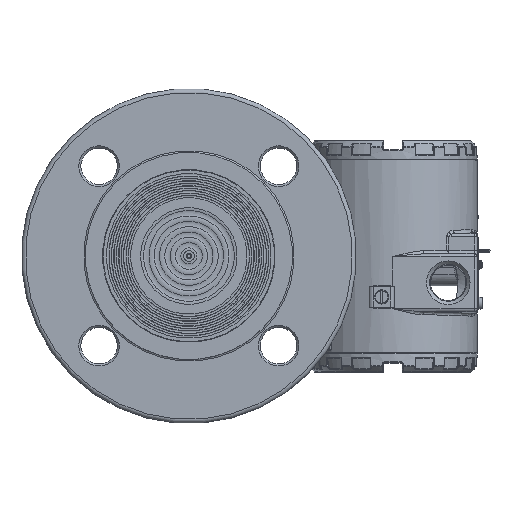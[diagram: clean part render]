
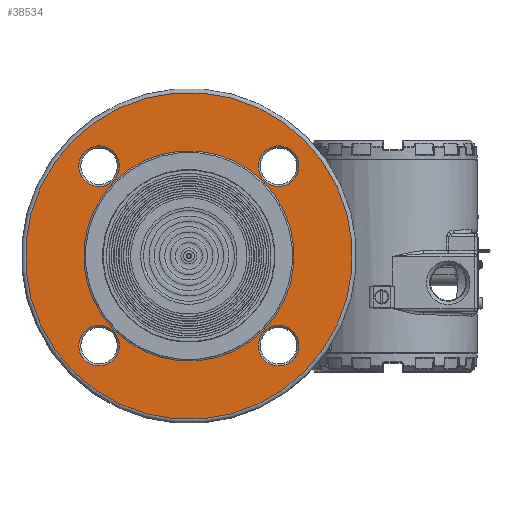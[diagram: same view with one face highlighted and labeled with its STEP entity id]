
A CAD part, top view. The second image highlights one B-rep face of the part: STEP entity #38534.
In plain terms, the highlighted planar face has unit normal (0, 0, 1) as drawn and (-1, 0, 0) by its records, which use the part's own axes.
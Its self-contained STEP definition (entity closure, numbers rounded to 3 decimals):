
#749=FACE_BOUND('',#6550,.T.);
#750=FACE_BOUND('',#6551,.T.);
#751=FACE_BOUND('',#6552,.T.);
#752=FACE_BOUND('',#6553,.T.);
#753=FACE_BOUND('',#6554,.T.);
#2719=PLANE('',#42822);
#3925=FACE_OUTER_BOUND('',#6549,.T.);
#6549=EDGE_LOOP('',(#29488,#29489));
#6550=EDGE_LOOP('',(#29490));
#6551=EDGE_LOOP('',(#29491));
#6552=EDGE_LOOP('',(#29492,#29493));
#6553=EDGE_LOOP('',(#29494));
#6554=EDGE_LOOP('',(#29495));
#12343=CIRCLE('',#42821,10.);
#12344=CIRCLE('',#42823,80.5);
#12345=CIRCLE('',#42824,80.5);
#12346=CIRCLE('',#42825,10.);
#12347=CIRCLE('',#42826,10.);
#12348=CIRCLE('',#42827,51.8);
#12349=CIRCLE('',#42828,51.8);
#12350=CIRCLE('',#42829,10.);
#16817=VERTEX_POINT('',#68724);
#16818=VERTEX_POINT('',#68728);
#16819=VERTEX_POINT('',#68729);
#16820=VERTEX_POINT('',#68732);
#16821=VERTEX_POINT('',#68734);
#16822=VERTEX_POINT('',#68736);
#16823=VERTEX_POINT('',#68737);
#16824=VERTEX_POINT('',#68740);
#21278=EDGE_CURVE('',#16817,#16817,#12343,.T.);
#21280=EDGE_CURVE('',#16818,#16819,#12344,.T.);
#21281=EDGE_CURVE('',#16819,#16818,#12345,.T.);
#21282=EDGE_CURVE('',#16820,#16820,#12346,.T.);
#21283=EDGE_CURVE('',#16821,#16821,#12347,.T.);
#21284=EDGE_CURVE('',#16822,#16823,#12348,.T.);
#21285=EDGE_CURVE('',#16823,#16822,#12349,.T.);
#21286=EDGE_CURVE('',#16824,#16824,#12350,.T.);
#29488=ORIENTED_EDGE('',*,*,#21280,.F.);
#29489=ORIENTED_EDGE('',*,*,#21281,.F.);
#29490=ORIENTED_EDGE('',*,*,#21282,.F.);
#29491=ORIENTED_EDGE('',*,*,#21283,.F.);
#29492=ORIENTED_EDGE('',*,*,#21284,.T.);
#29493=ORIENTED_EDGE('',*,*,#21285,.T.);
#29494=ORIENTED_EDGE('',*,*,#21286,.F.);
#29495=ORIENTED_EDGE('',*,*,#21278,.F.);
#38534=ADVANCED_FACE('',(#3925,#749,#750,#751,#752,#753),#2719,.T.);
#42821=AXIS2_PLACEMENT_3D('',#68725,#50718,#50719);
#42822=AXIS2_PLACEMENT_3D('',#68727,#50721,#50722);
#42823=AXIS2_PLACEMENT_3D('',#68730,#50723,#50724);
#42824=AXIS2_PLACEMENT_3D('',#68731,#50725,#50726);
#42825=AXIS2_PLACEMENT_3D('',#68733,#50727,#50728);
#42826=AXIS2_PLACEMENT_3D('',#68735,#50729,#50730);
#42827=AXIS2_PLACEMENT_3D('',#68738,#50731,#50732);
#42828=AXIS2_PLACEMENT_3D('',#68739,#50733,#50734);
#42829=AXIS2_PLACEMENT_3D('',#68741,#50735,#50736);
#50718=DIRECTION('center_axis',(-1.,0.,0.));
#50719=DIRECTION('ref_axis',(0.,-1.,0.));
#50721=DIRECTION('center_axis',(-1.,0.,0.));
#50722=DIRECTION('ref_axis',(0.,0.,1.));
#50723=DIRECTION('center_axis',(1.,0.,0.));
#50724=DIRECTION('ref_axis',(0.,1.,0.));
#50725=DIRECTION('center_axis',(1.,0.,0.));
#50726=DIRECTION('ref_axis',(0.,1.,0.));
#50727=DIRECTION('center_axis',(-1.,0.,0.));
#50728=DIRECTION('ref_axis',(0.,0.,1.));
#50729=DIRECTION('center_axis',(-1.,0.,0.));
#50730=DIRECTION('ref_axis',(0.,0.,-1.));
#50731=DIRECTION('center_axis',(1.,0.,0.));
#50732=DIRECTION('ref_axis',(0.,1.,0.));
#50733=DIRECTION('center_axis',(1.,0.,0.));
#50734=DIRECTION('ref_axis',(0.,1.,0.));
#50735=DIRECTION('center_axis',(-1.,0.,0.));
#50736=DIRECTION('ref_axis',(0.,1.,0.));
#68724=CARTESIAN_POINT('',(2.,72.5,0.));
#68725=CARTESIAN_POINT('Origin',(2.,62.5,0.));
#68727=CARTESIAN_POINT('Origin',(2.,66.15,0.));
#68728=CARTESIAN_POINT('',(2.,80.5,0.));
#68729=CARTESIAN_POINT('',(2.,0.,80.5));
#68730=CARTESIAN_POINT('Origin',(2.,0.,0.));
#68731=CARTESIAN_POINT('Origin',(2.,0.,0.));
#68732=CARTESIAN_POINT('',(2.,0.,-72.5));
#68733=CARTESIAN_POINT('Origin',(2.,0.,-62.5));
#68734=CARTESIAN_POINT('',(2.,0.,72.5));
#68735=CARTESIAN_POINT('Origin',(2.,0.,62.5));
#68736=CARTESIAN_POINT('',(2.,51.8,0.));
#68737=CARTESIAN_POINT('',(2.,0.,51.8));
#68738=CARTESIAN_POINT('Origin',(2.,0.,0.));
#68739=CARTESIAN_POINT('Origin',(2.,0.,0.));
#68740=CARTESIAN_POINT('',(2.,-72.5,0.));
#68741=CARTESIAN_POINT('Origin',(2.,-62.5,0.));
